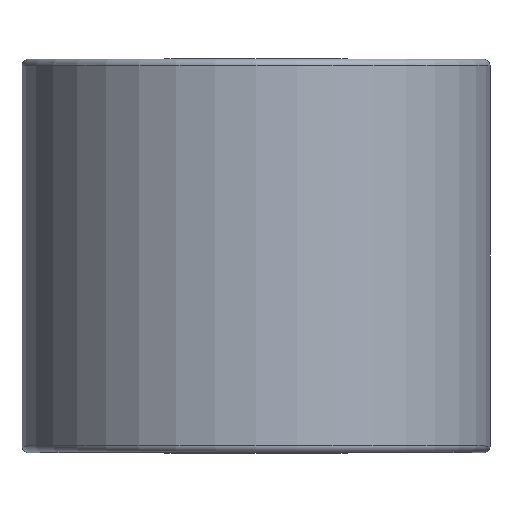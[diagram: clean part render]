
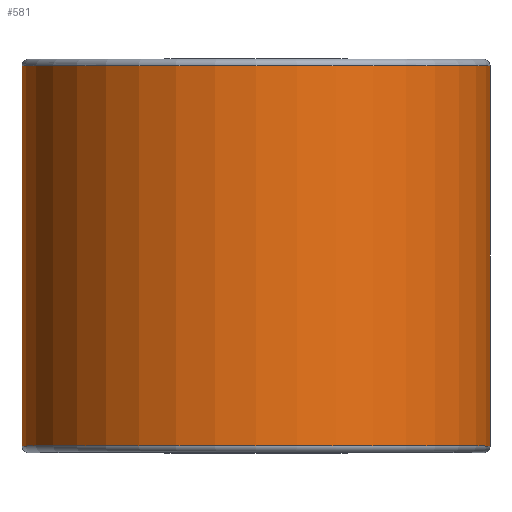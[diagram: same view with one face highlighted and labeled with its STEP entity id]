
A CAD part, top view. The second image highlights one B-rep face of the part: STEP entity #581.
In plain terms, the highlighted cylindrical face has radius 357 mm (diameter 714 mm), a full revolution.
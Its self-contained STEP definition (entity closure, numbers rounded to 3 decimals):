
#57=FACE_BOUND('',#191,.T.);
#123=FACE_OUTER_BOUND('',#190,.T.);
#190=EDGE_LOOP('',(#460));
#191=EDGE_LOOP('',(#461));
#284=CIRCLE('',#667,357.);
#286=CIRCLE('',#670,357.);
#338=VERTEX_POINT('',#1018);
#340=VERTEX_POINT('',#1023);
#392=EDGE_CURVE('',#338,#338,#284,.T.);
#394=EDGE_CURVE('',#340,#340,#286,.T.);
#460=ORIENTED_EDGE('',*,*,#394,.F.);
#461=ORIENTED_EDGE('',*,*,#392,.F.);
#542=CYLINDRICAL_SURFACE('',#669,357.);
#581=ADVANCED_FACE('',(#123,#57),#542,.T.);
#667=AXIS2_PLACEMENT_3D('',#1019,#826,#827);
#669=AXIS2_PLACEMENT_3D('',#1022,#830,#831);
#670=AXIS2_PLACEMENT_3D('',#1024,#832,#833);
#826=DIRECTION('center_axis',(0.,1.,0.));
#827=DIRECTION('ref_axis',(1.,0.,0.));
#830=DIRECTION('center_axis',(0.,1.,0.));
#831=DIRECTION('ref_axis',(1.,0.,0.));
#832=DIRECTION('center_axis',(0.,-1.,0.));
#833=DIRECTION('ref_axis',(1.,0.,0.));
#1018=CARTESIAN_POINT('',(-357.,290.,0.));
#1019=CARTESIAN_POINT('Origin',(0.,290.,0.));
#1022=CARTESIAN_POINT('Origin',(0.,0.,0.));
#1023=CARTESIAN_POINT('',(-357.,-290.,0.));
#1024=CARTESIAN_POINT('Origin',(0.,-290.,0.));
